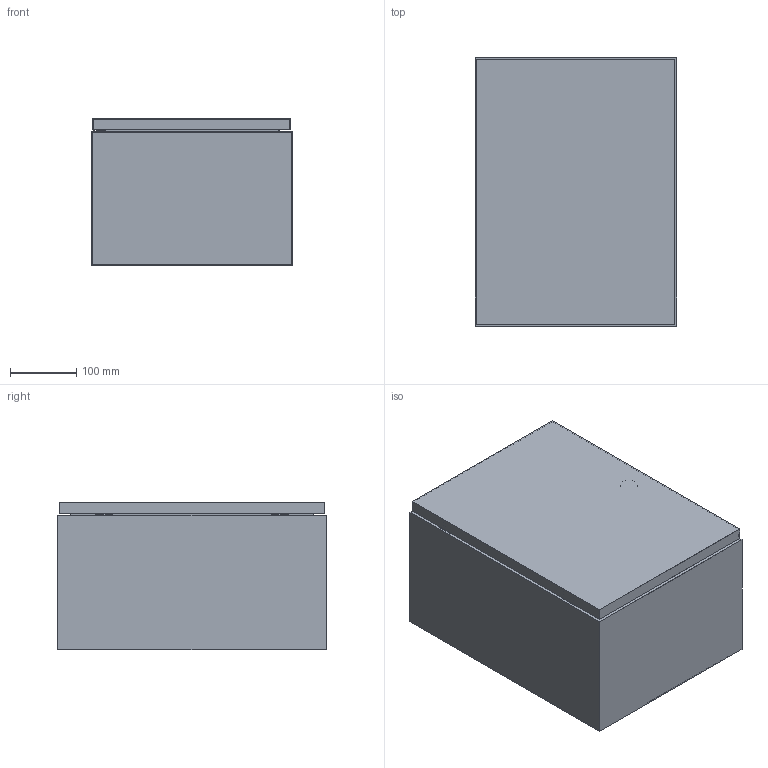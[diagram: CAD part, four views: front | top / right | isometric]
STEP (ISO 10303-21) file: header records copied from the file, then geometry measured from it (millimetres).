
FILE_DESCRIPTION((''),'2;1');
FILE_NAME('ENCL_IND_SOLID','2007-02-01T',('chrisj'),(''),'PRO/ENGINEER BY PARAMETRIC TECHNOLOGY CORPORATION, 2006080','PRO/ENGINEER BY PARAMETRIC TECHNOLOGY CORPORATION, 2006080','');
FILE_SCHEMA(('AUTOMOTIVE_DESIGN_CC2 { 1 2 10303 214 -1 1 5 2 }'));
Length unit declared in the file: inch
Products named in the file (1): ENCL_IND_SOLID
Bounding box: 304.8 x 406.4 x 223.52 mm (x, y, z)
Volume: 1121517.3 mm3; surface area: 1396606.3 mm2
Topology: 1 solids, 1 shells, 135 faces, 350 edges, 228 vertices
Faces by surface type: plane 97, cylinder 38
Entity records: 4168 total; most frequent: CARTESIAN_POINT 713, ORIENTED_EDGE 700, DIRECTION 696, EDGE_CURVE 350, VECTOR 274, LINE 274, VERTEX_POINT 228, AXIS2_PLACEMENT_3D 211
